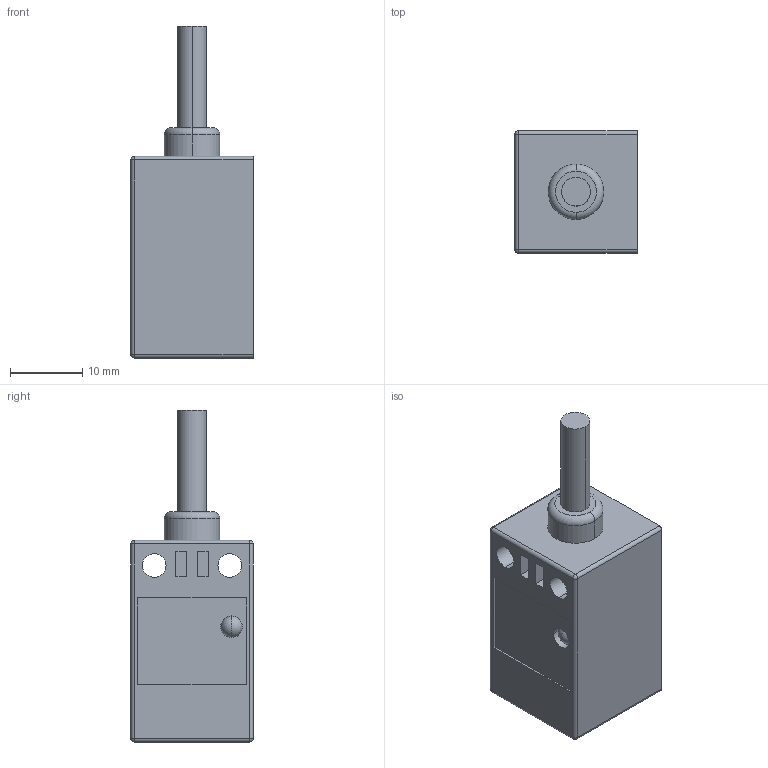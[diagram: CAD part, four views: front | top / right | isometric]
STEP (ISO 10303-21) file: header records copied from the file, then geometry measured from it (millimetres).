
FILE_DESCRIPTION((''),'2;1');
FILE_NAME('SL-Q8DN1','2019-11-22T16:39:32',('Administrator'),(''),'CREO PARAMETRIC BY PTC INC, 2016390','CREO PARAMETRIC BY PTC INC, 2016390','');
FILE_SCHEMA(('AUTOMOTIVE_DESIGN { 1 0 10303 214 1 1 1 1 }'));
Length unit declared in the file: millimetre
Products named in the file (1): SL-Q8DN1
Bounding box: 17 x 17 x 46.1 mm (x, y, z)
Volume: 7883.3 mm3; surface area: 3231.2 mm2
Topology: 1 solids, 1 shells, 93 faces, 214 edges, 137 vertices
Faces by surface type: plane 53, cylinder 32, sphere 6, torus 2
Entity records: 2693 total; most frequent: DIRECTION 470, CARTESIAN_POINT 444, ORIENTED_EDGE 424, EDGE_CURVE 212, AXIS2_PLACEMENT_3D 165, VECTOR 140, LINE 140, VERTEX_POINT 137
